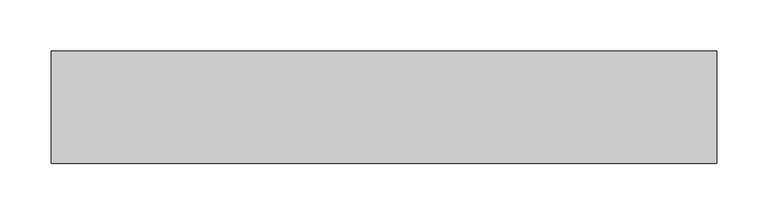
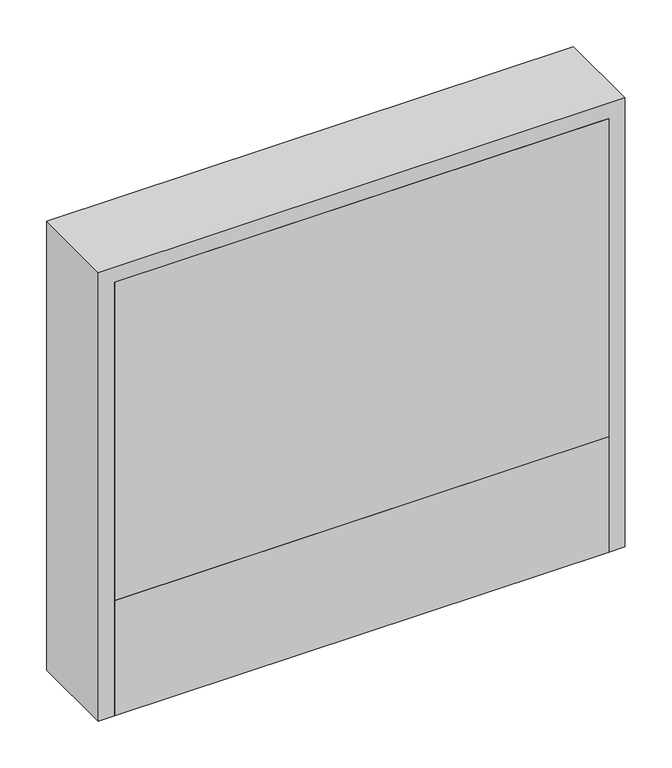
"""IFC4 building model written with IfcOpenShell, lengths in millimetres: valve geometry, PL CZ.HU Cabinet above plaster : SF-WEK1 4-5 manifold loops."""

from ifc_helpers import new_model, si_unit, frame, origin, origin_with_axes, place, context, project, spatial, polyline, outline, extrude, source, transform, mapped, element, save


def valve_f03cca1b(model_context):
    return source(origin(), model_context, "Body", "SweptSolid", [
        extrude(outline(polyline([(305.0, 0.0), (-305.0, 0.0), (-305.0, 110.0), (305.0, 110.0), (305.0, 0.0)])), origin_with_axes(), (0.0, 0.0, 1.0), 150.0),
        extrude(outline(polyline([(305.0, 0.0), (-305.0, 0.0), (-305.0, 110.0), (305.0, 110.0), (305.0, 0.0)])), frame((0.0, 0.0, 150.0), z_axis=(0.0, 0.0, 1.0), x_axis=(1.0, 0.0, 0.0)), (0.0, 0.0, 1.0), 415.0),
        extrude(outline(polyline([(585.0, 325.0), (585.0, -325.0), (0.0, -325.0), (0.0, -305.0), (565.0, -305.0), (565.0, 305.0), (0.0, 305.0), (0.0, 325.0), (585.0, 325.0)])), frame((0.0, 0.0, 0.0), z_axis=(0.0, 1.0, 0.0), x_axis=(0.0, 0.0, 1.0)), (0.0, 0.0, 1.0), 110.0),
    ])


if __name__ == "__main__":
    model = new_model("IFC4")
    model_context = context("Model", 3, world=origin())
    ifc_project = project(units=[si_unit("LENGTHUNIT", "METRE", prefix="MILLI")], contexts=[model_context])
    site = spatial("IfcSite", under=ifc_project)
    building = spatial("IfcBuilding", under=site)
    placement = place(None, origin())
    valve_shape = valve_f03cca1b(model_context)
    element("IfcValve", 1, ObjectType="PL CZ.HU Cabinet above plaster : SF-WEK1 4-5 manifold loops", at=placement, inside=building, context=model_context, shape_type="MappedRepresentation", body=[
        mapped(valve_shape, transform((0.0, 0.0, 0.0), x_axis=(1.0, 0.0, 0.0), y_axis=(0.0, 1.0, 0.0), z_axis=(0.0, 0.0, 1.0))),
    ])
    save(model, "model.ifc")
